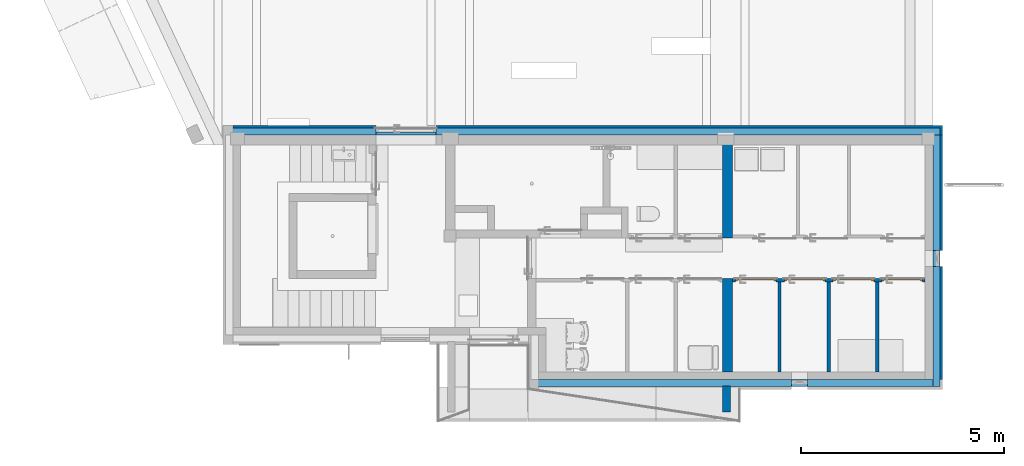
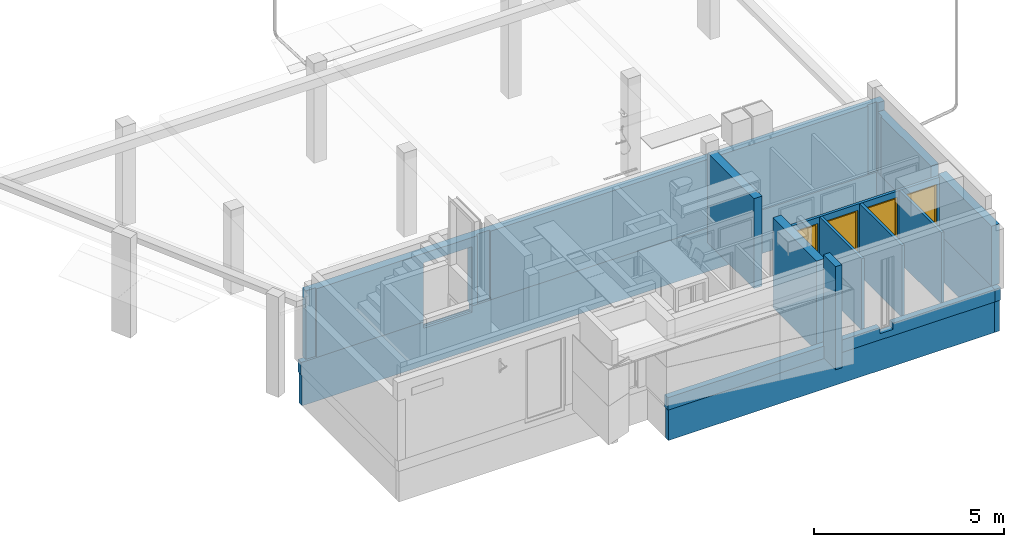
# One storey, part 3 of 55: 12 walls, 4 doors, 9 openings.
"""IFC2X3 building model written with IfcOpenShell, lengths in millimetres."""

from ifc_helpers import new_model, entity, si_unit, converted_unit, direction, frame, frame_2d, origin, place, context, subcontext, project, spatial, polyline, rectangle, extrude, clip, bounded_halfspace, faceted_brep, source, transform, mapped, material, layer, layer_set, layer_usage, type_object, type_shapes, element, fill, save


model = new_model("IFC2X3")

# Units and contexts
model_context = context("Model", 3, precision=0.01, world=origin(), true_north=direction((6.123233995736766e-17, 1.0)))
plan_context = context("Plan", 3, precision=0.01, world=origin(), true_north=direction((6.123233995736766e-17, 1.0)))
body_context = subcontext(model_context, "Body", "Model", "MODEL_VIEW")
ifc_project = project(units=[si_unit("LENGTHUNIT", "METRE", prefix="MILLI"), converted_unit("PLANEANGLEUNIT", "DEGREE", entity("IfcPlaneAngleMeasure", 0.017453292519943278), si_unit("PLANEANGLEUNIT", "RADIAN"), dimensions=[0, 0, 0, 0, 0, 0, 0]), si_unit("AREAUNIT", "SQUARE_METRE")], contexts=[model_context, plan_context])

# Site, building, storey
site_placement = place(None, origin())
site = spatial("IfcSite", under=ifc_project, at=site_placement, Name="Default", CompositionType="ELEMENT")
building_placement = place(site_placement, origin())
building = spatial("IfcBuilding", under=site, at=building_placement, CompositionType="ELEMENT")
storey_placement = place(building_placement, origin())
storey = spatial("IfcBuildingStorey", under=building, at=storey_placement, Name="1K", CompositionType="ELEMENT", Elevation=0.0)

# Walls
ifc_material_1 = material(Name="_K. Müüritis. Väikeplokk. Betoon-õõnesplokk")
ifc_layer_1 = layer(ifc_material_1, 190.00000000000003)
ifc_layer_set_1 = layer_set([ifc_layer_1], Name="Basic Wall:Columbia 190mm")
ifc_layer_usage_1 = layer_usage(ifc_layer_set_1, "AXIS2", "POSITIVE", -95.00000000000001)
wall_type_1 = type_object("IfcWallType", Name="Basic Wall:Columbia 190mm", PredefinedType="STANDARD", material=ifc_layer_set_1)
wall_1_placement = place(storey_placement, frame((11995.0, 449.9999945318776, -180.0), z_axis=(0.0, 0.0, 1.0), x_axis=(0.0, -1.0, 0.0)))
element("IfcWallStandardCase", 1, at=wall_1_placement, inside=storey, type_object=wall_type_1, material=ifc_layer_usage_1, Name="Basic Wall:Columbia 190mm", ObjectType="Basic Wall:Columbia 190mm", context=body_context, shape_type="SweptSolid", body=[
    extrude(rectangle(XDim=639.9999945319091, YDim=190.0000000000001, at=frame_2d((319.99999726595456, 0.0), x_axis=(-1.0, 0.0))), origin(), (0.0, 0.0, 1.0), 3305.0),
])
ifc_material_2 = material(Name="_K. Väisviimistlus. Krohv. Valge")
ifc_layer_2 = layer(ifc_material_2, 5.0)
ifc_layer_3 = layer(ifc_material_1, 240.0)
ifc_layer_4 = layer(ifc_material_2, 5.0)
ifc_layer_set_2 = layer_set([ifc_layer_2, ifc_layer_3, ifc_layer_4], Name="Basic Wall:SS-01.240")
ifc_layer_usage_2 = layer_usage(ifc_layer_set_2, "AXIS2", "NEGATIVE", 125.00000000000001)
wall_type_2 = type_object("IfcWallType", Name="Basic Wall:SS-01.240", PredefinedType="STANDARD", material=ifc_layer_set_2)
wall_2_placement = place(storey_placement, frame((12019.99506085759, 799.9999945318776, -180.0), z_axis=(0.0, 0.0, 1.0), x_axis=(0.0, 1.0, 0.0)))
element("IfcWallStandardCase", 2, at=wall_2_placement, inside=storey, type_object=wall_type_2, material=ifc_layer_usage_2, Name="Basic Wall:SS-01.240", ObjectType="Basic Wall:SS-01.240", context=body_context, shape_type="SweptSolid", body=[
    extrude(rectangle(XDim=2299.9999649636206, YDim=249.9999999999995, at=frame_2d((1149.9999824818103, -3.055333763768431e-13), x_axis=(-1.0, 0.0))), origin(), (0.0, 0.0, 1.0), 2884.999801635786),
])
ifc_layer_usage_3 = layer_usage(ifc_layer_set_2, "AXIS2", "NEGATIVE", 125.00000000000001)
wall_3_placement = place(storey_placement, frame((12019.995060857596, 4099.999959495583, -180.0), z_axis=(0.0, 0.0, 1.0), x_axis=(0.0, 1.0, 0.0)))
element("IfcWallStandardCase", 3, at=wall_3_placement, inside=storey, type_object=wall_type_2, material=ifc_layer_usage_3, Name="Basic Wall:SS-01.240", ObjectType="Basic Wall:SS-01.240", context=body_context, shape_type="SweptSolid", body=[
    extrude(rectangle(XDim=2424.9999999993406, YDim=249.9999999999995, at=frame_2d((1212.4999999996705, 8.668621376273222e-13), x_axis=(-1.0, 0.0))), origin(), (0.0, 0.0, 1.0), 2884.999801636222),
])

# Wall, opening
ifc_layer_5 = layer(ifc_material_2, 10.0)
ifc_material_3 = material(Name="_K. Soojustus. EPS Silver")
ifc_layer_6 = layer(ifc_material_3, 230.0)
ifc_layer_set_3 = layer_set([ifc_layer_5, ifc_layer_6], Name="Basic Wall:VS-01")
ifc_layer_usage_4 = layer_usage(ifc_layer_set_3, "AXIS2", "NEGATIVE", 120.0)
wall_type_3 = type_object("IfcWallType", Name="Basic Wall:VS-01", PredefinedType="STANDARD", material=ifc_layer_set_3)
wall_4_placement = place(storey_placement, frame((-190.0, 6765.000000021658, 200.0)))
wall_4 = element("IfcWallStandardCase", 4, at=wall_4_placement, inside=storey, type_object=wall_type_3, material=ifc_layer_usage_4, Name="Basic Wall:VS-01", ObjectType="Basic Wall:VS-01", context=body_context, shape_type="Clipping", body=[
    clip(clip(clip(clip(extrude(rectangle(XDim=17519.999999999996, YDim=239.9999999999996, at=frame_2d((8759.999999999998, -1.4921397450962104e-13), x_axis=(-1.0, 0.0))), origin(), (0.0, 0.0, 1.0), 2200.9998016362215), bounded_halfspace(frame((0.0, -60.0, 0.0), z_axis=(0.0, 1.0, 0.0), x_axis=(0.0, 0.0, -1.0)), True, frame((0.0, -60.0, 0.0), z_axis=(0.0, 1.0, 0.0), x_axis=(0.0, 0.0, -1.0)), polyline([(0.0, 0.0), (-1915.0, 0.0), (-2200.9998016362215, 0.0), (-2200.9998016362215, -290.0), (0.0, -290.0), (0.0, 0.0)]))), bounded_halfspace(frame((290.0, -120.0, 0.0), z_axis=(1.0, 0.0, 0.0), x_axis=(0.0, 0.0, -1.0)), True, frame((290.0, -120.0, 0.0), z_axis=(1.0, 0.0, 0.0), x_axis=(0.0, 0.0, -1.0)), polyline([(0.0, 0.0), (0.0, 60.0), (-2200.9998016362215, 60.0), (-2200.9998016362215, 0.0), (0.0, 0.0)]))), bounded_halfspace(frame((5170.001886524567, -60.0, 0.0), z_axis=(0.0, 1.0, 0.0), x_axis=(0.0, 0.0, -1.0)), True, frame((5170.001886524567, -60.0, 0.0), z_axis=(0.0, 1.0, 0.0), x_axis=(0.0, 0.0, -1.0)), polyline([(0.0, 0.0), (-2200.9998016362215, 0.0), (-2200.9998016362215, -400.0), (0.0, -400.0), (0.0, 0.0)]))), bounded_halfspace(frame((17015.0, -60.0, 2200.9998016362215), z_axis=(0.0, 1.0, 0.0), x_axis=(0.0, 0.0, -1.0)), True, frame((17015.0, -60.0, 2200.9998016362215), z_axis=(0.0, 1.0, 0.0), x_axis=(0.0, 0.0, -1.0)), polyline([(0.0, 0.0), (0.0, -300.0), (2200.9998016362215, -300.0), (2200.9998016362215, 0.0), (0.0, 0.0)]))),
])
opening_1_placement = place(wall_4_placement, frame((190.0, -6765.000000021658, -200.0)))
element("IfcOpeningElement", 5, at=opening_1_placement, cuts=wall_4, Name="Basic Wall:VS-01", ObjectType="Opening", context=body_context, shape_type="Brep", body=[
    faceted_brep([(4820.0, 5719.000000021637, 2100.0), (3350.0, 5719.000000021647, 2100.0), (3350.0, 5719.000000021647, 0.0), (4820.0, 5719.000000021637, 0.0), (4820.0, 6719.000000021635, 0.0), (4820.0, 6719.000000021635, -20.0), (4820.0, 6811.000000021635, -20.0), (4820.0, 6811.000000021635, 0.0), (4820.0, 7811.000000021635, 0.0), (4820.0, 7811.000000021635, 2100.0), (3350.0, 6719.000000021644, 0.0), (3350.0, 7811.000000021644, 2100.0), (3350.0, 7811.000000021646, 0.0), (3350.0, 6811.000000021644, 0.0), (3350.0, 6811.000000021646, -20.0), (3350.0, 6719.000000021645, -20.0)], [[[0, 1, 2, 3]], [[3, 4, 5, 6, 7, 8, 9, 0]], [[2, 10, 4, 3]], [[1, 11, 12, 13, 14, 15, 10, 2]], [[9, 11, 1, 0]], [[11, 9, 8, 12]], [[8, 7, 13, 12]], [[14, 13, 7, 6]], [[5, 4, 10, 15]], [[6, 5, 15, 14]]]),
])

ifc_layer_usage_5 = layer_usage(ifc_layer_set_3, "AXIS2", "NEGATIVE", 120.0)
wall_5_placement = place(storey_placement, frame((17210.0, 6645.000000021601, 200.0), z_axis=(0.0, 0.0, 1.0), x_axis=(0.0, -1.0, 0.0)))
wall_5 = element("IfcWallStandardCase", 6, at=wall_5_placement, inside=storey, type_object=wall_type_3, material=ifc_layer_usage_5, Name="Basic Wall:VS-01", ObjectType="Basic Wall:VS-01", context=body_context, shape_type="Clipping", body=[
    clip(clip(extrude(rectangle(XDim=6035.000000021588, YDim=240.00000000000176, at=frame_2d((3017.500000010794, 0.0), x_axis=(-1.0, 0.0))), origin(), (0.0, 0.0, 1.0), 1915.0), bounded_halfspace(frame((240.0, -85.0, 1915.0), z_axis=(1.0, 0.0, 0.0), x_axis=(0.0, 0.0, -1.0)), True, frame((240.0, -85.0, 1915.0), z_axis=(1.0, 0.0, 0.0), x_axis=(0.0, 0.0, -1.0)), polyline([(0.0, 0.0), (0.0, -25.0), (0.0, -35.0), (1915.0, -35.0), (1915.0, -25.0), (1915.0, 0.0), (0.0, 0.0)]))), bounded_halfspace(frame((240.0, -85.0, 0.0), z_axis=(0.0, 1.0, 0.0), x_axis=(0.0, 0.0, -1.0)), True, frame((240.0, -85.0, 0.0), z_axis=(0.0, 1.0, 0.0), x_axis=(0.0, 0.0, -1.0)), polyline([(0.0, 0.0), (0.0, 240.0), (-1915.0, 240.0), (-1915.0, 0.0), (0.0, 0.0)]))),
])
opening_2_placement = place(wall_5_placement, frame((6645.000000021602, -17210.0, -200.0), z_axis=(0.0, 0.0, 1.0), x_axis=(0.0, 1.0, 0.0)))
element("IfcOpeningElement", 7, at=opening_2_placement, cuts=wall_5, Name="Basic Wall:VS-01", ObjectType="Opening", context=body_context, shape_type="Brep", body=[
    faceted_brep([(17350.0, 3399.999994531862, 2115.0), (16656.0, 3399.9999945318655, 2115.0), (16656.0, 3399.9999945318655, 0.0), (17240.0, 3399.9999945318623, 0.0), (17250.0, 3399.9999945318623, 0.0), (17350.0, 3399.999994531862, 0.0), (17350.0, 3799.999994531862, 2115.0), (16656.0, 3799.9999945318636, 2115.0), (17350.0, 3799.999994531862, 0.0), (17250.0, 3799.9999945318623, 0.0), (17240.0, 3799.9999945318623, 0.0), (16656.0, 3799.9999945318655, 0.0)], [[[0, 1, 2, 3, 4, 5]], [[6, 7, 1, 0]], [[8, 9, 10, 11, 7, 6]], [[5, 4, 3, 2, 11, 10, 9, 8]], [[6, 0, 5, 8]], [[7, 11, 2, 1]]]),
])

# Wall, openings, doors
ifc_material_4 = material(Name="_K. Ehitusplaat. Vineer")
ifc_layer_7 = layer(ifc_material_4, 12.0)
ifc_material_5 = material(Name="_K. Puit. Peitsitud ja lakitud")
ifc_layer_8 = layer(ifc_material_5, 70.0)
ifc_layer_set_4 = layer_set([ifc_layer_7, ifc_layer_8], Name="Basic Wall:SS-07. Panipaik")
ifc_layer_usage_6 = layer_usage(ifc_layer_set_4, "AXIS2", "POSITIVE", -41.0)
wall_type_4 = type_object("IfcWallType", Name="Basic Wall:SS-07. Panipaik", PredefinedType="STANDARD", material=ifc_layer_set_4)
wall_6_placement = place(storey_placement, frame((12144.995060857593, 3058.9999594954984, 0.0)))
wall_6 = element("IfcWallStandardCase", 8, at=wall_6_placement, inside=storey, type_object=wall_type_4, material=ifc_layer_usage_6, Name="Basic Wall:SS-07. Panipaik", ObjectType="Basic Wall:SS-07. Panipaik", context=body_context, shape_type="SweptSolid", body=[
    extrude(rectangle(XDim=4755.0049391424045, YDim=81.99999999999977, at=frame_2d((2377.5024695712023, -1.2789769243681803e-13), x_axis=(-1.0, 0.0))), origin(), (0.0, 0.0, 1.0), 2300.0),
])
opening_3_placement = place(wall_6_placement, frame((-12144.995060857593, -3058.9999594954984, 0.0)))
opening_3 = element("IfcOpeningElement", 9, at=opening_3_placement, cuts=wall_6, Name="Basic Wall:SS-07. Panipaik", ObjectType="Opening", context=body_context, shape_type="Brep", body=[
    faceted_brep([(15630.0, 2039.9999594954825, 2100.0), (14630.0, 2039.9999594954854, 2100.0), (14630.0, 2039.9999594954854, 0.0), (15630.0, 2039.9999594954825, 0.0), (15630.0, 4099.999959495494, 0.0), (15630.0, 4099.999959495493, 2100.0), (14630.0, 4099.999959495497, 0.0), (14630.0, 4099.999959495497, 2100.0)], [[[0, 1, 2, 3]], [[3, 4, 5, 0]], [[2, 6, 4, 3]], [[1, 7, 6, 2]], [[5, 7, 1, 0]], [[7, 5, 4, 6]]]),
])
opening_4_placement = place(wall_6_placement, frame((-12144.995060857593, -3058.9999594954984, 0.0)))
opening_4 = element("IfcOpeningElement", 10, at=opening_4_placement, cuts=wall_6, Name="Basic Wall:SS-07. Panipaik", ObjectType="Opening", context=body_context, shape_type="Brep", body=[
    faceted_brep([(16830.0, 2039.9999594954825, 2100.0), (15830.0, 2039.9999594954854, 2100.0), (15830.0, 2039.9999594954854, 0.0), (16830.0, 2039.9999594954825, 0.0), (16830.0, 4099.999959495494, 0.0), (16830.0, 4099.999959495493, 2100.0), (15830.0, 4099.999959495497, 0.0), (15830.0, 4099.999959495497, 2100.0)], [[[0, 1, 2, 3]], [[3, 4, 5, 0]], [[2, 6, 4, 3]], [[1, 7, 6, 2]], [[5, 7, 1, 0]], [[7, 5, 4, 6]]]),
])
opening_5_placement = place(wall_6_placement, frame((-12144.995060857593, -3058.9999594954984, 0.0)))
opening_5 = element("IfcOpeningElement", 11, at=opening_5_placement, cuts=wall_6, Name="Basic Wall:SS-07. Panipaik", ObjectType="Opening", context=body_context, shape_type="Brep", body=[
    faceted_brep([(14430.0, 2039.9999594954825, 2100.0), (13430.0, 2039.9999594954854, 2100.0), (13430.0, 2039.9999594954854, 0.0), (14430.0, 2039.9999594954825, 0.0), (14430.0, 4099.999959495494, 0.0), (14430.0, 4099.999959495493, 2100.0), (13430.0, 4099.999959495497, 0.0), (13430.0, 4099.999959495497, 2100.0)], [[[0, 1, 2, 3]], [[3, 4, 5, 0]], [[2, 6, 4, 3]], [[1, 7, 6, 2]], [[5, 7, 1, 0]], [[7, 5, 4, 6]]]),
])
opening_6_placement = place(wall_6_placement, frame((-12144.995060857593, -3058.9999594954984, 0.0)))
opening_6 = element("IfcOpeningElement", 12, at=opening_6_placement, cuts=wall_6, Name="Basic Wall:SS-07. Panipaik", ObjectType="Opening", context=body_context, shape_type="Brep", body=[
    faceted_brep([(13214.99506085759, 2039.999959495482, 2100.0), (12214.99506085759, 2039.999959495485, 2100.0), (12214.99506085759, 2039.999959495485, 0.0), (13214.99506085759, 2039.999959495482, 0.0), (13214.995060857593, 4099.9999594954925, 0.0), (13214.995060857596, 4099.9999594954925, 2100.0), (12214.995060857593, 4099.999959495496, 0.0), (12214.995060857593, 4099.999959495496, 2100.0)], [[[0, 1, 2, 3]], [[3, 4, 5, 0]], [[2, 6, 4, 3]], [[1, 7, 6, 2]], [[5, 7, 1, 0]], [[7, 5, 4, 6]]]),
])
ifc_material_6 = material(Name="_K. Metall. Plekk. Tsingitud")
door_style = type_object("IfcDoorStyle", Name="HR_Generic_Hinged_Single:Panipaik. Vasak", ConstructionType="NOTDEFINED", OperationType="NOTDEFINED", ParameterTakesPrecedence=False, Sizeable=False, material=ifc_material_6)
shared_shape = source(origin(), body_context, "Body", "Brep", [
    faceted_brep([(37.0, -1030.0, 2060.0), (37.0, -1030.0, 10.0), (963.0, -1030.0, 10.0), (963.0, -1030.0, 2060.0), (27.0, -990.0, 10.0), (27.0, -990.0, 2070.0), (973.0, -990.0, 2070.0), (973.0, -990.0, 10.0), (37.0, -1000.0, 2060.0), (37.0, -1000.0, 10.0), (27.0, -1000.0, 10.0), (973.0, -1000.0, 10.0), (963.0, -1000.0, 10.0), (963.0, -1000.0, 2060.0), (27.0, -1000.0, 2070.0), (973.0, -1000.0, 2070.0)], [[[0, 1, 2, 3]], [[4, 5, 6, 7]], [[1, 0, 8, 9]], [[2, 1, 9, 10, 4, 7, 11, 12]], [[3, 2, 12, 13]], [[0, 3, 13, 8]], [[14, 10, 9, 8, 13, 12, 11, 15]], [[6, 5, 14, 15]], [[7, 6, 15, 11]], [[5, 4, 10, 14]]]),
    faceted_brep([(1000.0, -1060.0, 0.0), (950.0, -1060.0, 0.0), (950.0, -1030.0, 0.0), (965.0, -1030.0, 0.0), (965.0, -1000.0, 0.0), (1000.0, -1000.0, 0.0), (1000.0, -1060.0, 2100.0), (0.0, -1060.0, 2100.0), (0.0, -1060.0, 0.0), (50.0, -1060.0, 0.0), (50.0, -1060.0, 2050.0), (950.0, -1060.0, 2050.0), (950.0, -1030.0, 2050.0), (35.0, -1030.0, 2065.0), (965.0, -1030.0, 2065.0), (50.0, -1030.0, 2050.0), (50.0, -1030.0, 0.0), (35.0, -1030.0, 0.0), (965.0, -1000.0, 2065.0), (0.0, -1000.0, 0.0), (0.0, -1000.0, 2100.0), (1000.0, -1000.0, 2100.0), (35.0, -1000.0, 2065.0), (35.0, -1000.0, 0.0)], [[[0, 1, 2, 3, 4, 5]], [[1, 0, 6, 7, 8, 9, 10, 11]], [[1, 11, 12, 2]], [[13, 14, 3, 2, 12, 15, 16, 17]], [[3, 14, 18, 4]], [[19, 20, 21, 5, 4, 18, 22, 23]], [[0, 5, 21, 6]], [[8, 19, 23, 17, 16, 9]], [[19, 8, 7, 20]], [[13, 17, 23, 22]], [[10, 9, 16, 15]], [[7, 6, 21, 20]], [[11, 10, 15, 12]], [[14, 13, 22, 18]]]),
])
type_shapes(door_style, [shared_shape])
door_1_placement = place(opening_3_placement, frame((14630.0, 4099.999959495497, 0.0)))
door_1 = element("IfcDoor", 13, at=door_1_placement, inside=storey, type_object=door_style, material=ifc_material_6, Name="HR_Generic_Hinged_Single:Panipaik. Vasak", ObjectType="HR_Generic_Hinged_Single:Panipaik. Vasak", OverallHeight=2130.000000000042, OverallWidth=1060.0000000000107, context=body_context, shape_type="MappedRepresentation", body=[
    mapped(shared_shape, transform((0.0, 0.0, 0.0), scale=1.0)),
])
fill(opening_3, door_1)
door_2_placement = place(opening_4_placement, frame((15830.0, 4099.999959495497, 0.0)))
door_2 = element("IfcDoor", 14, at=door_2_placement, inside=storey, type_object=door_style, material=ifc_material_6, Name="HR_Generic_Hinged_Single:Panipaik. Vasak", ObjectType="HR_Generic_Hinged_Single:Panipaik. Vasak", OverallHeight=2130.000000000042, OverallWidth=1060.0000000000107, context=body_context, shape_type="MappedRepresentation", body=[
    mapped(shared_shape, transform((0.0, 0.0, 0.0), scale=1.0)),
])
fill(opening_4, door_2)
door_3_placement = place(opening_5_placement, frame((13430.0, 4099.999959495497, 0.0)))
door_3 = element("IfcDoor", 15, at=door_3_placement, inside=storey, type_object=door_style, material=ifc_material_6, Name="HR_Generic_Hinged_Single:Panipaik. Vasak", ObjectType="HR_Generic_Hinged_Single:Panipaik. Vasak", OverallHeight=2130.000000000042, OverallWidth=1060.0000000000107, context=body_context, shape_type="MappedRepresentation", body=[
    mapped(shared_shape, transform((0.0, 0.0, 0.0), scale=1.0)),
])
fill(opening_5, door_3)
door_4_placement = place(opening_6_placement, frame((12214.99506085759, 4099.999959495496, 0.0)))
door_4 = element("IfcDoor", 16, at=door_4_placement, inside=storey, type_object=door_style, material=ifc_material_6, Name="HR_Generic_Hinged_Single:Panipaik. Vasak", ObjectType="HR_Generic_Hinged_Single:Panipaik. Vasak", OverallHeight=2130.000000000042, OverallWidth=1060.0000000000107, context=body_context, shape_type="MappedRepresentation", body=[
    mapped(shared_shape, transform((0.0, 0.0, 0.0), scale=1.0)),
])
fill(opening_6, door_4)

# Walls
ifc_layer_usage_7 = layer_usage(ifc_layer_set_4, "AXIS2", "NEGATIVE", 41.0)
wall_7_placement = place(storey_placement, frame((15719.0, 799.9999945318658, 0.0), z_axis=(0.0, 0.0, 1.0), x_axis=(0.0, 1.0, 0.0)))
element("IfcWallStandardCase", 17, at=wall_7_placement, inside=storey, type_object=wall_type_4, material=ifc_layer_usage_7, Name="Basic Wall:SS-07. Panipaik", ObjectType="Basic Wall:SS-07. Panipaik", context=body_context, shape_type="SweptSolid", body=[
    extrude(rectangle(XDim=2217.999964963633, YDim=81.99999999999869, at=frame_2d((1108.9999824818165, -7.460698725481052e-14), x_axis=(-1.0, 0.0))), origin(), (0.0, 0.0, 1.0), 2300.0),
])
ifc_layer_usage_8 = layer_usage(ifc_layer_set_4, "AXIS2", "NEGATIVE", 41.0)
wall_8_placement = place(storey_placement, frame((14519.0, 799.9999945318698, 0.0), z_axis=(0.0, 0.0, 1.0), x_axis=(0.0, 1.0, 0.0)))
element("IfcWallStandardCase", 18, at=wall_8_placement, inside=storey, type_object=wall_type_4, material=ifc_layer_usage_8, Name="Basic Wall:SS-07. Panipaik", ObjectType="Basic Wall:SS-07. Panipaik", context=body_context, shape_type="SweptSolid", body=[
    extrude(rectangle(XDim=2217.9999649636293, YDim=81.99999999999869, at=frame_2d((1108.9999824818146, -7.460698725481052e-14), x_axis=(-1.0, 0.0))), origin(), (0.0, 0.0, 1.0), 2300.0),
])
ifc_layer_usage_9 = layer_usage(ifc_layer_set_4, "AXIS2", "NEGATIVE", 41.0)
wall_9_placement = place(storey_placement, frame((13303.995060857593, 799.9999945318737, 0.0), z_axis=(0.0, 0.0, 1.0), x_axis=(0.0, 1.0, 0.0)))
element("IfcWallStandardCase", 19, at=wall_9_placement, inside=storey, type_object=wall_type_4, material=ifc_layer_usage_9, Name="Basic Wall:SS-07. Panipaik", ObjectType="Basic Wall:SS-07. Panipaik", context=body_context, shape_type="SweptSolid", body=[
    extrude(rectangle(XDim=2217.9999649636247, YDim=81.99999999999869, at=frame_2d((1108.9999824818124, -7.460698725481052e-14), x_axis=(-1.0, 0.0))), origin(), (0.0, 0.0, 1.0), 2300.0),
])

# Wall, opening
ifc_material_7 = material(Name="_K. Ehitusplaat. Tsementkiudplaat. Must")
ifc_layer_9 = layer(ifc_material_7, 10.0)
ifc_material_8 = material(Name="_K. Õhk. Roov. Fassaadikatte alusroov. Vertikaalne. 25 mm")
ifc_layer_10 = layer(ifc_material_8, 16.0)
ifc_layer_11 = layer(ifc_material_3, 150.0)
ifc_layer_set_5 = layer_set([ifc_layer_9, ifc_layer_10, ifc_layer_11], Name="Basic Wall:VS-00")
ifc_layer_usage_10 = layer_usage(ifc_layer_set_5, "AXIS2", "NEGATIVE", 88.00000000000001)
wall_type_5 = type_object("IfcWallType", Name="Basic Wall:VS-00", PredefinedType="STANDARD", material=ifc_layer_set_5)
wall_10_placement = place(storey_placement, frame((-366.0, 6733.00000002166, -1200.0)))
wall_10 = element("IfcWallStandardCase", 20, at=wall_10_placement, inside=storey, type_object=wall_type_5, material=ifc_layer_usage_10, Name="Basic Wall:VS-00", ObjectType="Basic Wall:VS-00", context=body_context, shape_type="Clipping", body=[
    clip(extrude(rectangle(XDim=176.00000000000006, YDim=17631.999999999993, at=frame_2d((8815.999999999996, -1.0444978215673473e-12), x_axis=(0.0, -1.0))), origin(), (0.0, 0.0, 1.0), 1400.0000000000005), bounded_halfspace(frame((0.0, 88.0, 1000.0)), True, frame((0.0, 88.0, 1000.0)), polyline([(0.0, 0.0), (0.0, -176.0), (26.0, -176.0), (26.0, -26.0), (17606.0, -26.0), (17606.0, -176.0), (17632.0, -176.0), (17632.0, 0.0), (0.0, 0.0)]))),
])
opening_7_placement = place(wall_10_placement, frame((366.0, -6733.000000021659, 1200.0)))
element("IfcOpeningElement", 21, at=opening_7_placement, cuts=wall_10, Name="Basic Wall:VS-00", ObjectType="Opening", context=body_context, shape_type="Brep", body=[
    faceted_brep([(4820.0, 5719.000000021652, 2100.0), (3350.0, 5719.000000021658, 2100.0), (3350.0, 5719.000000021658, 0.0), (4820.0, 5719.000000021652, 0.0), (4820.0, 6719.0000000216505, 0.0), (4820.0, 6719.0000000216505, -20.0), (4820.0, 6811.0000000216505, -20.0), (4820.0, 6811.0000000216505, 0.0), (4820.0, 7811.0000000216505, 0.0), (4820.0, 7811.0000000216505, 2100.0), (3350.0, 6719.000000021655, 0.0), (3350.0, 7811.000000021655, 2100.0), (3350.0, 7811.000000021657, 0.0), (3350.0, 6811.000000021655, 0.0), (3350.0, 6811.000000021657, -20.0), (3350.0, 6719.000000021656, -20.0)], [[[0, 1, 2, 3]], [[3, 4, 5, 6, 7, 8, 9, 0]], [[2, 10, 4, 3]], [[1, 11, 12, 13, 14, 15, 10, 2]], [[9, 11, 1, 0]], [[11, 9, 8, 12]], [[8, 7, 13, 12]], [[14, 13, 7, 6]], [[5, 4, 10, 15]], [[6, 5, 15, 14]]]),
])

ifc_layer_usage_11 = layer_usage(ifc_layer_set_5, "AXIS2", "NEGATIVE", 88.00000000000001)
wall_11_placement = place(storey_placement, frame((17178.0, 6645.000000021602, -1200.0), z_axis=(0.0, 0.0, 1.0), x_axis=(0.0, -1.0, 0.0)))
wall_11 = element("IfcWallStandardCase", 22, at=wall_11_placement, inside=storey, type_object=wall_type_5, material=ifc_layer_usage_11, Name="Basic Wall:VS-00", ObjectType="Basic Wall:VS-00", context=body_context, shape_type="Clipping", body=[
    clip(extrude(rectangle(XDim=175.99999999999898, YDim=6211.00000002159, at=frame_2d((3105.5000000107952, 1.6342482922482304e-13), x_axis=(0.0, -1.0))), origin(), (0.0, 0.0, 1.0), 1400.0), bounded_halfspace(frame((0.0, 62.0, 1000.0), z_axis=(0.0, 0.0, 1.0), x_axis=(0.0, 1.0, 0.0)), True, frame((0.0, 62.0, 1000.0)), polyline([(0.0, 0.0), (6185.0, 0.0), (6185.0, -150.0), (6211.0, -150.0), (6211.0, 26.0), (0.0, 26.0), (0.0, 0.0)]))),
])
opening_8_placement = place(wall_11_placement, frame((6645.000000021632, -17178.0, 1200.0)))
element("IfcOpeningElement", 23, at=opening_8_placement, cuts=wall_11, Name="Basic Wall:VS-00", ObjectType="Opening", context=body_context, shape_type="Brep", body=[
    faceted_brep([(-3399.999994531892, 17350.0, 2115.0), (-3399.999994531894, 16656.0, 2115.0), (-3399.999994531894, 16656.0, 0.0), (-3399.9999945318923, 17240.0, 0.0), (-3399.9999945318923, 17250.0, 0.0), (-3399.999994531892, 17350.0, 0.0), (-3799.999994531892, 17350.0, 2115.0), (-3799.9999945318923, 16656.0, 2115.0), (-3799.999994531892, 17350.0, 0.0), (-3799.9999945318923, 17250.0, 0.0), (-3799.9999945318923, 17240.0, 0.0), (-3799.999994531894, 16656.0, 0.0)], [[[0, 1, 2, 3, 4, 5]], [[6, 7, 1, 0]], [[8, 9, 10, 11, 7, 6]], [[5, 4, 3, 2, 11, 10, 9, 8]], [[6, 0, 5, 8]], [[7, 11, 2, 1]]]),
])

ifc_layer_usage_12 = layer_usage(ifc_layer_set_5, "AXIS2", "NEGATIVE", 88.00000000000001)
wall_12_placement = place(storey_placement, frame((17090.0, 522.0, -1200.0), z_axis=(0.0, 0.0, 1.0), x_axis=(-1.0, 0.0, 0.0)))
wall_12 = element("IfcWallStandardCase", 24, at=wall_12_placement, inside=storey, type_object=wall_type_5, material=ifc_layer_usage_12, Name="Basic Wall:VS-00", ObjectType="Basic Wall:VS-00", context=body_context, shape_type="Clipping", body=[
    clip(extrude(rectangle(XDim=9915.999999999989, YDim=176.00000000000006, at=frame_2d((4957.9999999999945, 1.4210854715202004e-14), x_axis=(-1.0, 0.0))), origin(), (0.0, 0.0, 1.0), 1400.0), bounded_halfspace(frame((0.0, 62.0, 1000.0), z_axis=(0.0, 0.0, 1.0), x_axis=(-1.0, 0.0, 0.0)), True, frame((0.0, 62.0, 1000.0)), polyline([(0.0, 0.0), (9890.0, 0.0), (9890.0, -150.0), (9916.0, -150.0), (9916.0, 26.0), (0.0, 26.0), (0.0, 0.0)]))),
])
opening_9_placement = place(wall_12_placement, frame((17090.0, 522.0, 1200.0)))
element("IfcOpeningElement", 25, at=opening_9_placement, cuts=wall_12, Name="Basic Wall:VS-00", ObjectType="Opening", context=body_context, shape_type="Brep", body=[
    faceted_brep([(-13600.0, -290.0, 2400.0), (-13600.0, -1084.0, 2400.0), (-13600.0, -1084.0, 0.0), (-13600.0, -500.0, 0.0), (-13600.0, -490.0, 0.0), (-13600.0, -290.0, 0.0), (-14000.0, -290.0, 2400.0), (-14000.0, -1084.0, 2400.0), (-14000.0, -290.0, 0.0), (-14000.0, -490.0, 0.0), (-14000.0, -500.0, 0.0), (-14000.0, -1084.0, 0.0)], [[[0, 1, 2, 3, 4, 5]], [[6, 7, 1, 0]], [[8, 9, 10, 11, 7, 6]], [[5, 4, 3, 2, 11, 10, 9, 8]], [[6, 0, 5, 8]], [[7, 11, 2, 1]]]),
])

save(model, "model.ifc")
